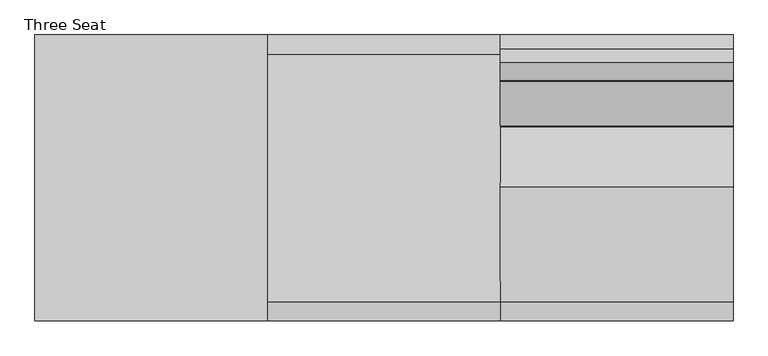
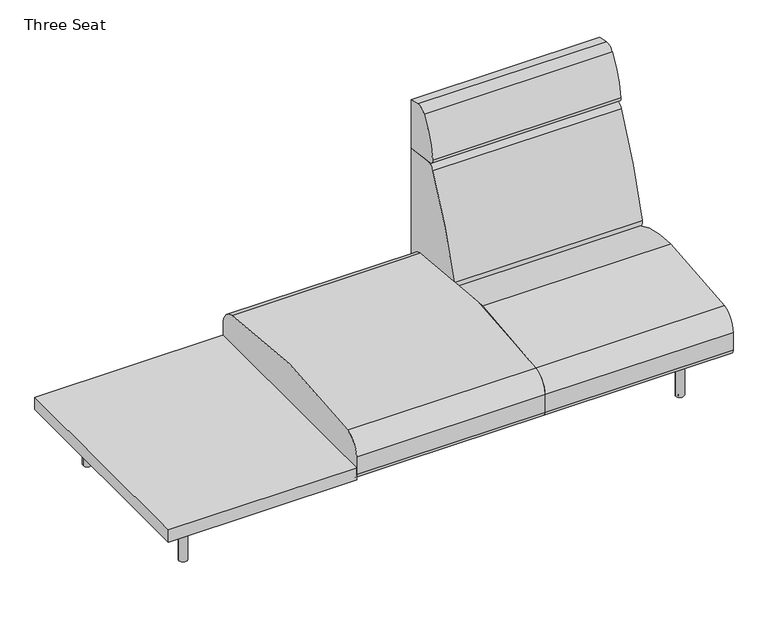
"""IFC4 building model written with IfcOpenShell, lengths in millimetres: furniture geometry, Coalesse_AM_Seating_LoungeChair_Sistema_LegBase_ThreeSeat : Three Seat."""

from ifc_helpers import new_model, si_unit, point, frame, frame_2d, origin, origin_with_axes, place, context, project, spatial, polyline, circle_curve, trimmed, segment, composite_curve, outline, extrude, source, transform, mapped, element, save


def three_seat_1ac1547f(model_context):
    return source(origin(), model_context, "Body", "SweptSolid", [
        extrude(outline(polyline([(374.4965227, 459.4795619), (374.4965227, -461.2704381), (-374.8034773, -461.2704381), (-374.8034773, 459.4795619), (374.4965227, 459.4795619)])), frame((0.0, 0.0, 204.47), z_axis=(0.0, 0.0, 1.0), x_axis=(1.0, 0.0, 0.0)), (0.0, 0.0, 1.0), 51.0294654),
        extrude(outline(composite_curve([segment(trimmed(circle_curve(frame_2d((-438.9184381, 226.822)), 22.352), [point((-438.9184381, 204.47))], [point((-461.2704381, 226.822))], False, "CARTESIAN"), True, "CONTINUOUS"), segment(polyline([(-461.2704381, 226.822), (-461.2704381, 301.4421993)]), True, "CONTINUOUS"), segment(trimmed(circle_curve(frame_2d((-385.0704381, 301.4421993)), 76.2), [point((-461.2704381, 301.4421993))], [point((-398.9279534, 376.3715612))], False, "CARTESIAN"), True, "CONTINUOUS"), segment(trimmed(circle_curve(frame_2d((-0.3717831, -1778.6727457)), 2191.5891461), [point((-398.9279534, 376.3715612))], [point((397.0993513, 376.5719464))], False, "CARTESIAN"), True, "CONTINUOUS"), segment(trimmed(circle_curve(frame_2d((383.2795619, 301.6356173)), 76.2), [point((397.0993513, 376.5719464))], [point((459.4795619, 301.6356173))], False, "CARTESIAN"), True, "CONTINUOUS"), segment(polyline([(459.4795619, 301.6356173), (459.4795619, 226.7871991)]), True, "CONTINUOUS"), segment(trimmed(circle_curve(frame_2d((437.1623628, 226.7871991)), 22.3171991), [point((459.4795619, 226.7871991))], [point((437.1623628, 204.47))], False, "CARTESIAN"), True, "CONTINUOUS"), segment(polyline([(437.1623628, 204.47), (-438.9184381, 204.47)]), True, "CONTINUOUS")], self_intersect=False)), frame((374.4965227, 0.0, 0.0), z_axis=(1.0, 0.0, 0.0), x_axis=(0.0, 1.0, 0.0)), (0.0, 0.0, 1.0), 749.3),
        extrude(outline(composite_curve([segment(polyline([(459.4795619, 985.4592709), (459.4795619, 780.845009), (327.9700683, 799.327463)]), True, "CONTINUOUS"), segment(trimmed(circle_curve(frame_2d((330.6213159, 818.1920697)), 19.05), [point((327.9700683, 799.327463))], [point((311.7521971, 820.8110119))], False, "CARTESIAN"), True, "CONTINUOUS"), segment(trimmed(circle_curve(frame_2d((679.5815991, 769.7580741)), 371.3554516), [point((311.7521971, 820.8110119))], [point((372.1246101, 978.0249014))], False, "CARTESIAN"), True, "CONTINUOUS"), segment(trimmed(circle_curve(frame_2d((405.8944569, 955.1497055)), 40.7881985), [point((372.1246101, 978.0249014))], [point((414.3748002, 995.046584))], False, "CARTESIAN"), True, "CONTINUOUS"), segment(polyline([(414.3748002, 995.046584), (459.4795619, 985.4592709)]), True, "CONTINUOUS")], self_intersect=False)), frame((1123.7965227, 0.0, 0.0), z_axis=(1.0, 0.0, 0.0), x_axis=(0.0, 1.0, 0.0)), (0.0, 0.0, 1.0), 749.3),
        extrude(outline(composite_curve([segment(polyline([(459.4795619, 780.845009), (459.4795619, 228.1929806)]), True, "CONTINUOUS"), segment(trimmed(circle_curve(frame_2d((191.495971, 228.1929806)), 267.983591), [point((459.4795619, 228.1929806))], [point((458.9860775, 211.937276))], False, "CARTESIAN"), True, "CONTINUOUS"), segment(polyline([(458.9860775, 211.937276), (177.4990556, 364.1028799)]), True, "CONTINUOUS"), segment(trimmed(circle_curve(frame_2d((189.5778307, 386.4470781)), 25.4), [point((177.4990556, 364.1028799))], [point((164.9600055, 392.7018911))], False, "CARTESIAN"), True, "CONTINUOUS"), segment(trimmed(circle_curve(frame_2d((1918.112812, -52.7331923)), 1808.8552115), [point((164.9600055, 392.7018911))], [point((310.2880264, 776.0349508))], False, "CARTESIAN"), True, "CONTINUOUS"), segment(trimmed(circle_curve(frame_2d((344.1537133, 758.5785695)), 38.1), [point((310.2880264, 776.0349508))], [point((349.4562085, 796.3077829))], False, "CARTESIAN"), True, "CONTINUOUS"), segment(polyline([(349.4562085, 796.3077829), (459.4795619, 780.845009)]), True, "CONTINUOUS")], self_intersect=False)), frame((1123.7965227, 0.0, 0.0), z_axis=(1.0, 0.0, 0.0), x_axis=(0.0, 1.0, 0.0)), (0.0, 0.0, 1.0), 749.3),
        extrude(outline(composite_curve([segment(trimmed(circle_curve(frame_2d((-438.9184381, 226.822)), 22.352), [point((-438.9184381, 204.47))], [point((-461.2704381, 226.822))], False, "CARTESIAN"), True, "CONTINUOUS"), segment(polyline([(-461.2704381, 226.822), (-461.2704381, 301.4421993)]), True, "CONTINUOUS"), segment(trimmed(circle_curve(frame_2d((-385.0704381, 301.4421993)), 76.2), [point((-461.2704381, 301.4421993))], [point((-398.9277015, 376.3716077))], False, "CARTESIAN"), True, "CONTINUOUS"), segment(trimmed(circle_curve(frame_2d((2.2103559, -1792.6740646)), 2205.8265729), [point((-398.9277015, 376.3716077))], [point((-31.1968175, 412.8995185))], False, "CARTESIAN"), True, "CONTINUOUS"), segment(trimmed(circle_curve(frame_2d((-24.5128424, -28.3829182)), 441.333054), [point((-31.1968175, 412.8995185))], [point((184.5757008, 360.2774035))], False, "CARTESIAN"), True, "CONTINUOUS"), segment(polyline([(184.5757008, 360.2774035), (458.9860775, 211.937276)]), True, "CONTINUOUS"), segment(trimmed(circle_curve(frame_2d((442.3266309, 226.7871991)), 22.3171991), [point((458.9860775, 211.937276))], [point((442.3266309, 204.47))], False, "CARTESIAN"), True, "CONTINUOUS"), segment(polyline([(442.3266309, 204.47), (-438.9184381, 204.47)]), True, "CONTINUOUS")], self_intersect=False)), frame((1123.7965227, 0.0, 0.0), z_axis=(1.0, 0.0, 0.0), x_axis=(0.0, 1.0, 0.0)), (0.0, 0.0, 1.0), 749.3),
        extrude(outline(composite_curve([segment(trimmed(circle_curve(frame_2d((1738.4765227, 335.9943389)), 6.096), [point((1744.5725227, 335.9943389))], [point((1732.3805227, 335.9943389))], False, "CARTESIAN"), True, "CONTINUOUS"), segment(trimmed(circle_curve(frame_2d((1738.4765227, 335.9943389)), 6.096), [point((1732.3805227, 335.9943389))], [point((1744.5725227, 335.9943389))], False, "CARTESIAN"), True, "CONTINUOUS")], self_intersect=False)), origin_with_axes(), (0.0, 0.0, 1.0), 4.3662291),
        extrude(outline(composite_curve([segment(trimmed(circle_curve(frame_2d((1738.4765227, -327.2630889)), 6.096), [point((1744.5725227, -327.2630889))], [point((1732.3805227, -327.2630889))], False, "CARTESIAN"), True, "CONTINUOUS"), segment(trimmed(circle_curve(frame_2d((1738.4765227, -327.2630889)), 6.096), [point((1732.3805227, -327.2630889))], [point((1744.5725227, -327.2630889))], False, "CARTESIAN"), True, "CONTINUOUS")], self_intersect=False)), origin_with_axes(), (0.0, 0.0, 1.0), 4.3662291),
        extrude(outline(composite_curve([segment(polyline([(157.0399209, 1751.056375), (201.7356243, 1751.056375)]), True, "CONTINUOUS"), segment(trimmed(circle_curve(frame_2d((201.7356243, 1748.008375)), 3.048), [point((201.7356243, 1751.056375))], [point((204.7836243, 1748.008375))], False, "CARTESIAN"), True, "CONTINUOUS"), segment(polyline([(204.7836243, 1748.008375), (204.7836243, 1728.666199)]), True, "CONTINUOUS"), segment(trimmed(circle_curve(frame_2d((201.7356243, 1728.666199)), 3.048), [point((204.7836243, 1728.666199))], [point((201.7356243, 1725.618199))], False, "CARTESIAN"), True, "CONTINUOUS"), segment(polyline([(201.7356243, 1725.618199), (157.1249936, 1725.618199)]), True, "CONTINUOUS"), segment(trimmed(circle_curve(frame_2d((157.1249936, 1728.7512718)), 3.1330728), [point((157.1249936, 1725.618199))], [point((153.9919209, 1728.7512718))], False, "CARTESIAN"), True, "CONTINUOUS"), segment(polyline([(153.9919209, 1728.7512718), (153.9919209, 1748.008375)]), True, "CONTINUOUS"), segment(trimmed(circle_curve(frame_2d((157.0399209, 1748.008375)), 3.048), [point((153.9919209, 1748.008375))], [point((157.0399209, 1751.056375))], False, "CARTESIAN"), True, "CONTINUOUS")], self_intersect=False)), frame((0.0, 222.3519802, 0.0), z_axis=(0.0, 1.0, 0.0), x_axis=(0.0, 0.0, 1.0)), (0.0, 0.0, 1.0), 92.6273161),
        extrude(outline(composite_curve([segment(polyline([(157.0399209, 1751.056375), (201.7356243, 1751.056375)]), True, "CONTINUOUS"), segment(trimmed(circle_curve(frame_2d((201.7356243, 1748.008375)), 3.048), [point((201.7356243, 1751.056375))], [point((204.7836243, 1748.008375))], False, "CARTESIAN"), True, "CONTINUOUS"), segment(polyline([(204.7836243, 1748.008375), (204.7836243, 1728.666199)]), True, "CONTINUOUS"), segment(trimmed(circle_curve(frame_2d((201.7356243, 1728.666199)), 3.048), [point((204.7836243, 1728.666199))], [point((201.7356243, 1725.618199))], False, "CARTESIAN"), True, "CONTINUOUS"), segment(polyline([(201.7356243, 1725.618199), (157.1249936, 1725.618199)]), True, "CONTINUOUS"), segment(trimmed(circle_curve(frame_2d((157.1249936, 1728.7512718)), 3.1330728), [point((157.1249936, 1725.618199))], [point((153.9919209, 1728.7512718))], False, "CARTESIAN"), True, "CONTINUOUS"), segment(polyline([(153.9919209, 1728.7512718), (153.9919209, 1748.008375)]), True, "CONTINUOUS"), segment(trimmed(circle_curve(frame_2d((157.0399209, 1748.008375)), 3.048), [point((153.9919209, 1748.008375))], [point((157.0399209, 1751.056375))], False, "CARTESIAN"), True, "CONTINUOUS")], self_intersect=False)), frame((0.0, -314.9792963, 0.0), z_axis=(0.0, 1.0, 0.0), x_axis=(0.0, 0.0, 1.0)), (0.0, 0.0, 1.0), 92.6273161),
        extrude(outline(composite_curve([segment(trimmed(circle_curve(frame_2d((176.3356606, 1715.8259944)), 3.048), [point((179.3836606, 1715.8259944))], [point((176.3356606, 1712.7779944))], False, "CARTESIAN"), True, "CONTINUOUS"), segment(polyline([(176.3356606, 1712.7779944), (157.0399209, 1712.7779944)]), True, "CONTINUOUS"), segment(trimmed(circle_curve(frame_2d((157.0399209, 1715.8259944)), 3.048), [point((157.0399209, 1712.7779944))], [point((153.9919209, 1715.8259944))], False, "CARTESIAN"), True, "CONTINUOUS"), segment(polyline([(153.9919209, 1715.8259944), (153.9919209, 1760.5135501)]), True, "CONTINUOUS"), segment(trimmed(circle_curve(frame_2d((157.056462, 1760.5135501)), 3.0645412), [point((153.9919209, 1760.5135501))], [point((157.056462, 1763.5780913))], False, "CARTESIAN"), True, "CONTINUOUS"), segment(polyline([(157.056462, 1763.5780913), (176.3356606, 1763.5780913)]), True, "CONTINUOUS"), segment(trimmed(circle_curve(frame_2d((176.3356606, 1760.5300913)), 3.048), [point((176.3356606, 1763.5780913))], [point((179.3836606, 1760.5300913))], False, "CARTESIAN"), True, "CONTINUOUS"), segment(polyline([(179.3836606, 1760.5300913), (179.3836606, 1715.8259944)]), True, "CONTINUOUS")], self_intersect=False)), frame((0.0, -222.3519802, 0.0), z_axis=(0.0, 1.0, 0.0), x_axis=(0.0, 0.0, 1.0)), (0.0, 0.0, 1.0), 444.7039604),
        extrude(outline(composite_curve([segment(trimmed(circle_curve(frame_2d((1738.4765227, 332.3095741)), 16.51), [point((1754.9865227, 332.3095741))], [point((1721.9665227, 332.3095741))], False, "CARTESIAN"), True, "CONTINUOUS"), segment(trimmed(circle_curve(frame_2d((1738.4765227, 332.3095741)), 16.51), [point((1721.9665227, 332.3095741))], [point((1754.9865227, 332.3095741))], False, "CARTESIAN"), True, "CONTINUOUS")], self_intersect=False)), frame((0.0, 0.0, 4.3662291), z_axis=(0.0, 0.0, 1.0), x_axis=(1.0, 0.0, 0.0)), (0.0, 0.0, 1.0), 200.1037709),
        extrude(outline(composite_curve([segment(trimmed(circle_curve(frame_2d((1738.0796477, -327.5470741)), 16.51), [point((1754.5896477, -327.5470741))], [point((1721.5696477, -327.5470741))], False, "CARTESIAN"), True, "CONTINUOUS"), segment(trimmed(circle_curve(frame_2d((1738.0796477, -327.5470741)), 16.51), [point((1721.5696477, -327.5470741))], [point((1754.5896477, -327.5470741))], False, "CARTESIAN"), True, "CONTINUOUS")], self_intersect=False)), frame((0.0, 0.0, 4.3662291), z_axis=(0.0, 0.0, 1.0), x_axis=(1.0, 0.0, 0.0)), (0.0, 0.0, 1.0), 200.1037709),
        extrude(outline(composite_curve([segment(trimmed(circle_curve(frame_2d((-240.1834773, 335.9943389)), 6.096), [point((-246.2794773, 335.9943389))], [point((-234.0874773, 335.9943389))], False, "CARTESIAN"), True, "CONTINUOUS"), segment(trimmed(circle_curve(frame_2d((-240.1834773, 335.9943389)), 6.096), [point((-234.0874773, 335.9943389))], [point((-246.2794773, 335.9943389))], False, "CARTESIAN"), True, "CONTINUOUS")], self_intersect=False)), origin_with_axes(), (0.0, 0.0, 1.0), 4.3662291),
        extrude(outline(composite_curve([segment(trimmed(circle_curve(frame_2d((-240.1834773, -327.2630889)), 6.096), [point((-246.2794773, -327.2630889))], [point((-234.0874773, -327.2630889))], False, "CARTESIAN"), True, "CONTINUOUS"), segment(trimmed(circle_curve(frame_2d((-240.1834773, -327.2630889)), 6.096), [point((-234.0874773, -327.2630889))], [point((-246.2794773, -327.2630889))], False, "CARTESIAN"), True, "CONTINUOUS")], self_intersect=False)), origin_with_axes(), (0.0, 0.0, 1.0), 4.3662291),
        extrude(outline(composite_curve([segment(trimmed(circle_curve(frame_2d((157.0399209, -249.7153296)), 3.048), [point((157.0399209, -252.7633296))], [point((153.9919209, -249.7153296))], False, "CARTESIAN"), True, "CONTINUOUS"), segment(polyline([(153.9919209, -249.7153296), (153.9919209, -230.4582264)]), True, "CONTINUOUS"), segment(trimmed(circle_curve(frame_2d((157.1249936, -230.4582264)), 3.1330728), [point((153.9919209, -230.4582264))], [point((157.1249936, -227.3251537))], False, "CARTESIAN"), True, "CONTINUOUS"), segment(polyline([(157.1249936, -227.3251537), (201.7356243, -227.3251537)]), True, "CONTINUOUS"), segment(trimmed(circle_curve(frame_2d((201.7356243, -230.3731537)), 3.048), [point((201.7356243, -227.3251537))], [point((204.7836243, -230.3731537))], False, "CARTESIAN"), True, "CONTINUOUS"), segment(polyline([(204.7836243, -230.3731537), (204.7836243, -249.7153296)]), True, "CONTINUOUS"), segment(trimmed(circle_curve(frame_2d((201.7356243, -249.7153296)), 3.048), [point((204.7836243, -249.7153296))], [point((201.7356243, -252.7633296))], False, "CARTESIAN"), True, "CONTINUOUS"), segment(polyline([(201.7356243, -252.7633296), (157.0399209, -252.7633296)]), True, "CONTINUOUS")], self_intersect=False)), frame((0.0, 222.3519802, 0.0), z_axis=(0.0, 1.0, 0.0), x_axis=(0.0, 0.0, 1.0)), (0.0, 0.0, 1.0), 92.6273161),
        extrude(outline(composite_curve([segment(trimmed(circle_curve(frame_2d((157.0399209, -249.7153296)), 3.048), [point((157.0399209, -252.7633296))], [point((153.9919209, -249.7153296))], False, "CARTESIAN"), True, "CONTINUOUS"), segment(polyline([(153.9919209, -249.7153296), (153.9919209, -230.4582264)]), True, "CONTINUOUS"), segment(trimmed(circle_curve(frame_2d((157.1249936, -230.4582264)), 3.1330728), [point((153.9919209, -230.4582264))], [point((157.1249936, -227.3251537))], False, "CARTESIAN"), True, "CONTINUOUS"), segment(polyline([(157.1249936, -227.3251537), (201.7356243, -227.3251537)]), True, "CONTINUOUS"), segment(trimmed(circle_curve(frame_2d((201.7356243, -230.3731537)), 3.048), [point((201.7356243, -227.3251537))], [point((204.7836243, -230.3731537))], False, "CARTESIAN"), True, "CONTINUOUS"), segment(polyline([(204.7836243, -230.3731537), (204.7836243, -249.7153296)]), True, "CONTINUOUS"), segment(trimmed(circle_curve(frame_2d((201.7356243, -249.7153296)), 3.048), [point((204.7836243, -249.7153296))], [point((201.7356243, -252.7633296))], False, "CARTESIAN"), True, "CONTINUOUS"), segment(polyline([(201.7356243, -252.7633296), (157.0399209, -252.7633296)]), True, "CONTINUOUS")], self_intersect=False)), frame((0.0, -314.9792963, 0.0), z_axis=(0.0, 1.0, 0.0), x_axis=(0.0, 0.0, 1.0)), (0.0, 0.0, 1.0), 92.6273161),
        extrude(outline(composite_curve([segment(polyline([(179.3836606, -217.532949), (179.3836606, -262.2370459)]), True, "CONTINUOUS"), segment(trimmed(circle_curve(frame_2d((176.3356606, -262.2370459)), 3.048), [point((179.3836606, -262.2370459))], [point((176.3356606, -265.2850459))], False, "CARTESIAN"), True, "CONTINUOUS"), segment(polyline([(176.3356606, -265.2850459), (157.056462, -265.2850459)]), True, "CONTINUOUS"), segment(trimmed(circle_curve(frame_2d((157.056462, -262.2205047)), 3.0645412), [point((157.056462, -265.2850459))], [point((153.9919209, -262.2205047))], False, "CARTESIAN"), True, "CONTINUOUS"), segment(polyline([(153.9919209, -262.2205047), (153.9919209, -217.532949)]), True, "CONTINUOUS"), segment(trimmed(circle_curve(frame_2d((157.0399209, -217.532949)), 3.048), [point((153.9919209, -217.532949))], [point((157.0399209, -214.484949))], False, "CARTESIAN"), True, "CONTINUOUS"), segment(polyline([(157.0399209, -214.484949), (176.3356606, -214.484949)]), True, "CONTINUOUS"), segment(trimmed(circle_curve(frame_2d((176.3356606, -217.532949)), 3.048), [point((176.3356606, -214.484949))], [point((179.3836606, -217.532949))], False, "CARTESIAN"), True, "CONTINUOUS")], self_intersect=False)), frame((0.0, -222.3519802, 0.0), z_axis=(0.0, 1.0, 0.0), x_axis=(0.0, 0.0, 1.0)), (0.0, 0.0, 1.0), 444.7039604),
        extrude(outline(composite_curve([segment(trimmed(circle_curve(frame_2d((-240.1834773, 332.3095741)), 16.51), [point((-256.6934773, 332.3095741))], [point((-223.6734773, 332.3095741))], False, "CARTESIAN"), True, "CONTINUOUS"), segment(trimmed(circle_curve(frame_2d((-240.1834773, 332.3095741)), 16.51), [point((-223.6734773, 332.3095741))], [point((-256.6934773, 332.3095741))], False, "CARTESIAN"), True, "CONTINUOUS")], self_intersect=False)), frame((0.0, 0.0, 4.3662291), z_axis=(0.0, 0.0, 1.0), x_axis=(1.0, 0.0, 0.0)), (0.0, 0.0, 1.0), 200.1037709),
        extrude(outline(composite_curve([segment(trimmed(circle_curve(frame_2d((-239.7866023, -327.5470741)), 16.51), [point((-256.2966023, -327.5470741))], [point((-223.2766023, -327.5470741))], False, "CARTESIAN"), True, "CONTINUOUS"), segment(trimmed(circle_curve(frame_2d((-239.7866023, -327.5470741)), 16.51), [point((-223.2766023, -327.5470741))], [point((-256.2966023, -327.5470741))], False, "CARTESIAN"), True, "CONTINUOUS")], self_intersect=False)), frame((0.0, 0.0, 4.3662291), z_axis=(0.0, 0.0, 1.0), x_axis=(1.0, 0.0, 0.0)), (0.0, 0.0, 1.0), 200.1037709),
    ])


if __name__ == "__main__":
    model = new_model("IFC4")
    model_context = context("Model", 3, world=origin())
    ifc_project = project(units=[si_unit("LENGTHUNIT", "METRE", prefix="MILLI")], contexts=[model_context])
    site = spatial("IfcSite", under=ifc_project)
    building = spatial("IfcBuilding", under=site)
    placement = place(None, origin())
    three_seat_shape = three_seat_1ac1547f(model_context)
    element("IfcFurniture", 1, ObjectType="Coalesse_AM_Seating_LoungeChair_Sistema_LegBase_ThreeSeat : Three Seat", at=placement, inside=building, context=model_context, shape_type="MappedRepresentation", body=[
        mapped(three_seat_shape, transform((0.0, 0.0, 0.0), x_axis=(1.0, 0.0, 0.0), y_axis=(0.0, 1.0, 0.0), z_axis=(0.0, 0.0, 1.0))),
    ])
    save(model, "model.ifc")
